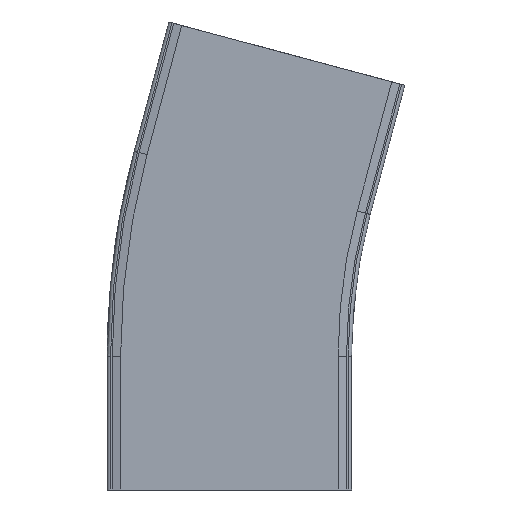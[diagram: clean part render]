
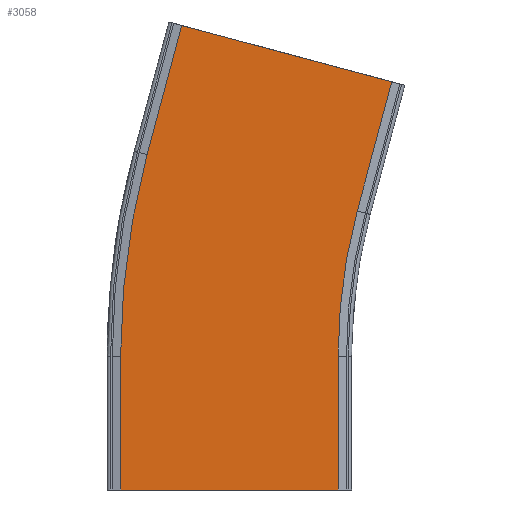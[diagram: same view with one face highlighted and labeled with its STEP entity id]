
A CAD part, front view. The second image highlights one B-rep face of the part: STEP entity #3058.
In plain terms, the highlighted planar face has unit normal (0, -1, 0).
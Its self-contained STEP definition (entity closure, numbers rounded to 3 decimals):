
#113=CIRCLE('',#3252,335.);
#114=CIRCLE('',#3254,465.);
#248=FACE_OUTER_BOUND('',#415,.T.);
#415=EDGE_LOOP('',(#2053,#2054,#2055,#2056,#2057,#2058,#2059,#2060));
#585=LINE('',#4286,#927);
#589=LINE('',#4293,#931);
#600=LINE('',#4326,#942);
#601=LINE('',#4328,#943);
#602=LINE('',#4329,#944);
#603=LINE('',#4330,#945);
#927=VECTOR('',#3480,10.);
#931=VECTOR('',#3486,10.);
#942=VECTOR('',#3517,10.);
#943=VECTOR('',#3518,10.);
#944=VECTOR('',#3519,10.);
#945=VECTOR('',#3520,10.);
#1269=VERTEX_POINT('',#4283);
#1270=VERTEX_POINT('',#4285);
#1272=VERTEX_POINT('',#4291);
#1281=VERTEX_POINT('',#4317);
#1282=VERTEX_POINT('',#4319);
#1283=VERTEX_POINT('',#4323);
#1284=VERTEX_POINT('',#4325);
#1285=VERTEX_POINT('',#4327);
#1569=EDGE_CURVE('',#1270,#1269,#585,.T.);
#1573=EDGE_CURVE('',#1272,#1269,#589,.T.);
#1586=EDGE_CURVE('',#1282,#1281,#113,.T.);
#1588=EDGE_CURVE('',#1283,#1272,#114,.T.);
#1589=EDGE_CURVE('',#1284,#1283,#600,.T.);
#1590=EDGE_CURVE('',#1284,#1285,#601,.T.);
#1591=EDGE_CURVE('',#1285,#1282,#602,.T.);
#1592=EDGE_CURVE('',#1281,#1270,#603,.T.);
#2053=ORIENTED_EDGE('',*,*,#1569,.T.);
#2054=ORIENTED_EDGE('',*,*,#1573,.F.);
#2055=ORIENTED_EDGE('',*,*,#1588,.F.);
#2056=ORIENTED_EDGE('',*,*,#1589,.F.);
#2057=ORIENTED_EDGE('',*,*,#1590,.T.);
#2058=ORIENTED_EDGE('',*,*,#1591,.T.);
#2059=ORIENTED_EDGE('',*,*,#1586,.T.);
#2060=ORIENTED_EDGE('',*,*,#1592,.T.);
#2943=PLANE('',#3253);
#3058=ADVANCED_FACE('',(#248),#2943,.T.);
#3252=AXIS2_PLACEMENT_3D('',#4320,#3510,#3511);
#3253=AXIS2_PLACEMENT_3D('',#4322,#3513,#3514);
#3254=AXIS2_PLACEMENT_3D('',#4324,#3515,#3516);
#3480=DIRECTION('',(-0.966,0.,0.259));
#3486=DIRECTION('',(0.259,0.,0.966));
#3510=DIRECTION('center_axis',(0.,1.,0.));
#3511=DIRECTION('ref_axis',(-1.,0.,0.));
#3513=DIRECTION('center_axis',(0.,-1.,0.));
#3514=DIRECTION('ref_axis',(-0.259,0.,-0.966));
#3515=DIRECTION('center_axis',(0.,1.,0.));
#3516=DIRECTION('ref_axis',(-1.,0.,0.));
#3517=DIRECTION('',(0.,0.,1.));
#3518=DIRECTION('',(1.,0.,0.));
#3519=DIRECTION('',(0.,0.,1.));
#3520=DIRECTION('',(0.259,0.,0.966));
#4283=CARTESIAN_POINT('',(10.551,-72.,277.625));
#4285=CARTESIAN_POINT('',(136.121,-72.,243.978));
#4286=CARTESIAN_POINT('',(103.28,-72.,252.778));
#4291=CARTESIAN_POINT('',(-10.155,-72.,200.351));
#4293=CARTESIAN_POINT('',(-57.964,-72.,21.925));
#4317=CARTESIAN_POINT('',(115.416,-72.,166.704));
#4319=CARTESIAN_POINT('',(104.001,-72.,80.));
#4320=CARTESIAN_POINT('Origin',(439.001,-72.,80.));
#4322=CARTESIAN_POINT('Origin',(67.607,-72.,-11.721));
#4323=CARTESIAN_POINT('',(-25.999,-72.,80.));
#4324=CARTESIAN_POINT('Origin',(439.001,-72.,80.));
#4325=CARTESIAN_POINT('',(-25.999,-72.,0.));
#4326=CARTESIAN_POINT('',(-25.999,-72.,0.));
#4327=CARTESIAN_POINT('',(104.001,-72.,0.));
#4328=CARTESIAN_POINT('',(-25.999,-72.,0.));
#4329=CARTESIAN_POINT('',(104.001,-72.,0.));
#4330=CARTESIAN_POINT('',(67.607,-72.,-11.721));
